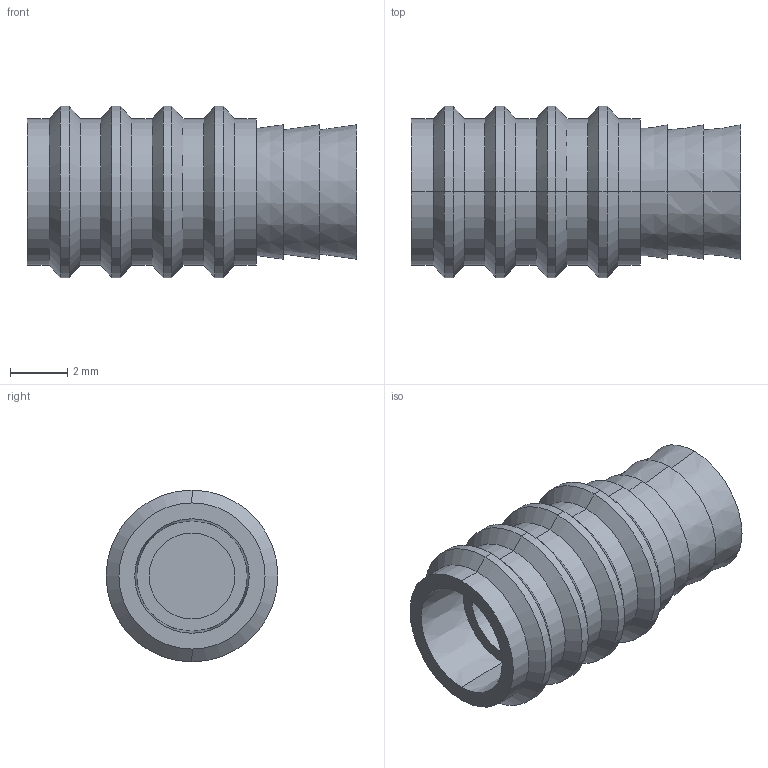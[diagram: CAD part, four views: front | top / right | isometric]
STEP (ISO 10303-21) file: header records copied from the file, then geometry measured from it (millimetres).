
FILE_DESCRIPTION (( 'STEP AP214' ), '1' );
FILE_NAME ('BR942-06.STEP', '2020-06-23T10:10:21', ( '' ), ( '' ), 'SwSTEP 2.0', 'SolidWorks 2018', '' );
FILE_SCHEMA (( 'AUTOMOTIVE_DESIGN' ));
Length unit declared in the file: millimetre
Products named in the file (1): BR942-06
Bounding box: 11.5 x 6 x 6 mm (x, y, z)
Volume: 188.7 mm3; surface area: 324.3 mm2
Topology: 1 solids, 1 shells, 51 faces, 100 edges, 56 vertices
Faces by surface type: cone 24, cylinder 20, plane 7
Entity records: 1328 total; most frequent: DIRECTION 260, CARTESIAN_POINT 208, ORIENTED_EDGE 200, AXIS2_PLACEMENT_3D 108, EDGE_CURVE 100, CIRCLE 56, EDGE_LOOP 56, VERTEX_POINT 56
